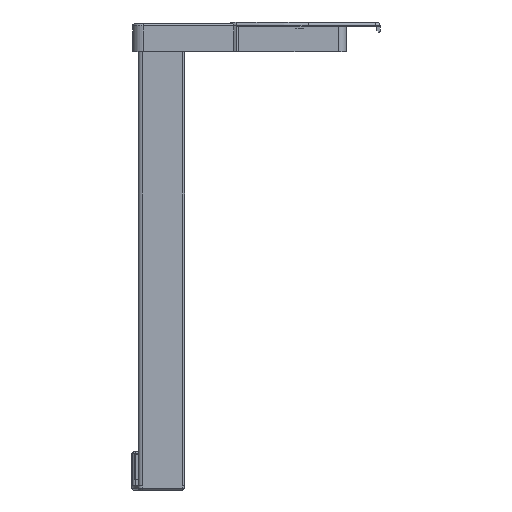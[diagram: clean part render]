
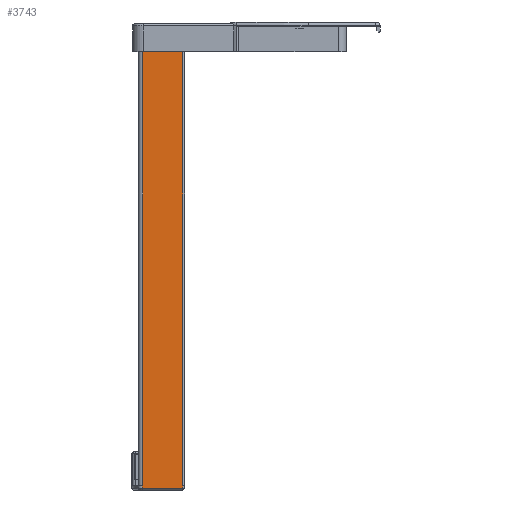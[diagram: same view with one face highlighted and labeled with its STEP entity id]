
A CAD part, left-side view. The second image highlights one B-rep face of the part: STEP entity #3743.
In plain terms, the highlighted planar face has unit normal (-1, 0, 0).
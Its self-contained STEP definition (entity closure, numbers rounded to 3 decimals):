
#1112 = VERTEX_POINT ( 'NONE', #4374 ) ;
#1116 = EDGE_CURVE ( 'NONE', #1112, #1117, #4436, .T. ) ;
#1117 = VERTEX_POINT ( 'NONE', #4432 ) ;
#1717 = VERTEX_POINT ( 'NONE', #4698 ) ;
#2744 = ORIENTED_EDGE ( 'NONE', *, *, #3626, .F. ) ;
#2758 = ORIENTED_EDGE ( 'NONE', *, *, #3462, .F. ) ;
#2761 = EDGE_CURVE ( 'NONE', #2765, #3458, #4774, .T. ) ;
#2763 = ORIENTED_EDGE ( 'NONE', *, *, #2761, .T. ) ;
#2765 = VERTEX_POINT ( 'NONE', #4829 ) ;
#2772 = ORIENTED_EDGE ( 'NONE', *, *, #2774, .T. ) ;
#2773 = ORIENTED_EDGE ( 'NONE', *, *, #1116, .F. ) ;
#2774 = EDGE_CURVE ( 'NONE', #1112, #2765, #4813, .T. ) ;
#2780 = ORIENTED_EDGE ( 'NONE', *, *, #3211, .F. ) ;
#2878 = VERTEX_POINT ( 'NONE', #5012 ) ;
#2956 = EDGE_CURVE ( 'NONE', #1717, #2878, #5110, .T. ) ;
#3211 = EDGE_CURVE ( 'NONE', #1117, #1717, #5540, .T. ) ;
#3458 = VERTEX_POINT ( 'NONE', #6022 ) ;
#3462 = EDGE_CURVE ( 'NONE', #3818, #3458, #6016, .T. ) ;
#3626 = EDGE_CURVE ( 'NONE', #3792, #3818, #6267, .T. ) ;
#3721 = ORIENTED_EDGE ( 'NONE', *, *, #2956, .F. ) ;
#3732 = EDGE_LOOP ( 'NONE', ( #3733, #3721, #2780, #2773, #2772, #2763, #2758, #2744 ) ) ;
#3733 = ORIENTED_EDGE ( 'NONE', *, *, #3759, .T. ) ;
#3743 = ADVANCED_FACE ( 'NONE', ( #6467 ), #6466, .F. ) ;
#3759 = EDGE_CURVE ( 'NONE', #3792, #2878, #6493, .T. ) ;
#3792 = VERTEX_POINT ( 'NONE', #6558 ) ;
#3818 = VERTEX_POINT ( 'NONE', #6580 ) ;
#4374 = CARTESIAN_POINT ( 'NONE',  ( -418., 60.5, -16.2 ) ) ;
#4432 = CARTESIAN_POINT ( 'NONE',  ( -418., 34.5, -16.2 ) ) ;
#4433 = DIRECTION ( 'NONE',  ( 0., -1., 0. ) ) ;
#4434 = VECTOR ( 'NONE', #4433, 1000. ) ;
#4435 = CARTESIAN_POINT ( 'NONE',  ( -418., 60.5, -16.2 ) ) ;
#4436 = LINE ( 'NONE', #4435, #4434 ) ;
#4698 = CARTESIAN_POINT ( 'NONE',  ( -418., 34.5, -297. ) ) ;
#4771 = DIRECTION ( 'NONE',  ( 0., 1., 0. ) ) ;
#4772 = VECTOR ( 'NONE', #4771, 1000. ) ;
#4773 = CARTESIAN_POINT ( 'NONE',  ( -418., 34.8, -297. ) ) ;
#4774 = LINE ( 'NONE', #4773, #4772 ) ;
#4810 = DIRECTION ( 'NONE',  ( 0., 0., -1. ) ) ;
#4811 = VECTOR ( 'NONE', #4810, 1000. ) ;
#4812 = CARTESIAN_POINT ( 'NONE',  ( -418., 60.5, 15.753 ) ) ;
#4813 = LINE ( 'NONE', #4812, #4811 ) ;
#4829 = CARTESIAN_POINT ( 'NONE',  ( -418., 60.5, -297. ) ) ;
#5012 = CARTESIAN_POINT ( 'NONE',  ( -418., 34.8, -297. ) ) ;
#5104 = DIRECTION ( 'NONE',  ( 0., 1., 0. ) ) ;
#5105 = VECTOR ( 'NONE', #5104, 1000. ) ;
#5106 = CARTESIAN_POINT ( 'NONE',  ( -418., 60.5, -297. ) ) ;
#5110 = LINE ( 'NONE', #5106, #5105 ) ;
#5537 = DIRECTION ( 'NONE',  ( 0., 0., -1. ) ) ;
#5538 = VECTOR ( 'NONE', #5537, 1000. ) ;
#5539 = CARTESIAN_POINT ( 'NONE',  ( -418., 34.5, 15.753 ) ) ;
#5540 = LINE ( 'NONE', #5539, #5538 ) ;
#6013 = DIRECTION ( 'NONE',  ( 0., 0., 1. ) ) ;
#6014 = VECTOR ( 'NONE', #6013, 1000. ) ;
#6015 = CARTESIAN_POINT ( 'NONE',  ( -418., 60.922, -299.8 ) ) ;
#6016 = LINE ( 'NONE', #6015, #6014 ) ;
#6022 = CARTESIAN_POINT ( 'NONE',  ( -418., 60.922, -297. ) ) ;
#6265 = VECTOR ( 'NONE', #6326, 1000. ) ;
#6266 = CARTESIAN_POINT ( 'NONE',  ( -418., 60.5, -298.8 ) ) ;
#6267 = LINE ( 'NONE', #6266, #6265 ) ;
#6326 = DIRECTION ( 'NONE',  ( 0., 1., 0. ) ) ;
#6461 = DIRECTION ( 'NONE',  ( 0., 0., 1. ) ) ;
#6462 = DIRECTION ( 'NONE',  ( 1., 0., 0. ) ) ;
#6463 = CARTESIAN_POINT ( 'NONE',  ( -418., 60.5, 15.753 ) ) ;
#6464 = AXIS2_PLACEMENT_3D ( 'NONE', #6463, #6462, #6461 ) ;
#6466 = PLANE ( 'NONE',  #6464 ) ;
#6467 = FACE_OUTER_BOUND ( 'NONE', #3732, .T. ) ;
#6490 = DIRECTION ( 'NONE',  ( 0., 0., 1. ) ) ;
#6491 = VECTOR ( 'NONE', #6490, 1000. ) ;
#6492 = CARTESIAN_POINT ( 'NONE',  ( -418., 34.8, -299.8 ) ) ;
#6493 = LINE ( 'NONE', #6492, #6491 ) ;
#6558 = CARTESIAN_POINT ( 'NONE',  ( -418., 34.8, -298.8 ) ) ;
#6580 = CARTESIAN_POINT ( 'NONE',  ( -418., 60.922, -298.8 ) ) ;
